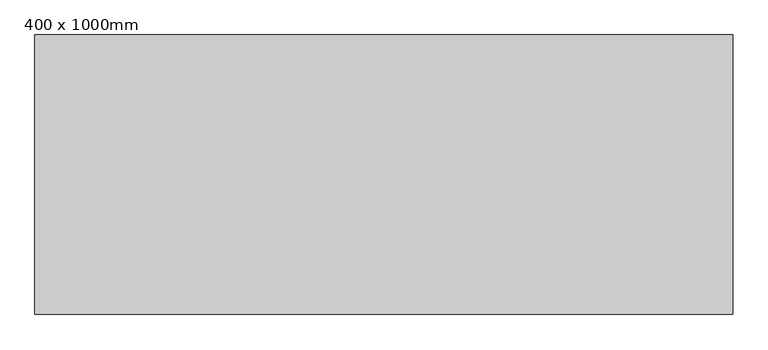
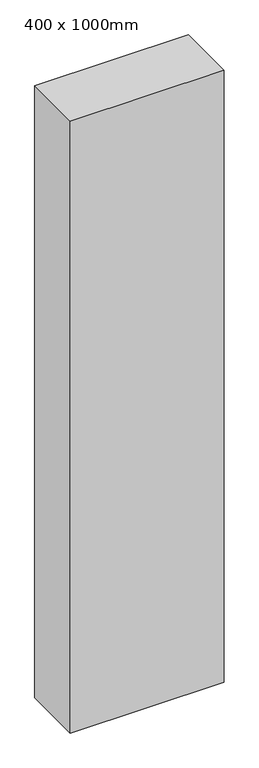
"""IFC4 building model written with IfcOpenShell, lengths in millimetres: column geometry, 矩形柱 : 400 x 1000mm."""

from ifc_helpers import new_model, si_unit, origin, origin_with_axes, place, context, project, spatial, polyline, outline, extrude, source, transform, mapped, element, save


def column_400_x_1000mm_b216b8c1(model_context):
    return source(origin(), model_context, "Body", "SweptSolid", [
        extrude(outline(polyline([(500.0, 200.0), (500.0, -200.0), (-500.0, -200.0), (-500.0, 200.0), (500.0, 200.0)])), origin_with_axes(), (0.0, 0.0, 1.0), 4200.0),
    ])


if __name__ == "__main__":
    model = new_model("IFC4")
    model_context = context("Model", 3, world=origin())
    ifc_project = project(units=[si_unit("LENGTHUNIT", "METRE", prefix="MILLI")], contexts=[model_context])
    site = spatial("IfcSite", under=ifc_project)
    building = spatial("IfcBuilding", under=site)
    placement = place(None, origin())
    column_400_x_1000mm_shape = column_400_x_1000mm_b216b8c1(model_context)
    element("IfcColumn", 1, ObjectType="矩形柱 : 400 x 1000mm", at=placement, inside=building, context=model_context, shape_type="MappedRepresentation", body=[
        mapped(column_400_x_1000mm_shape, transform((0.0, 0.0, 0.0), x_axis=(1.0, 0.0, 0.0), y_axis=(0.0, 1.0, 0.0), z_axis=(0.0, 0.0, 1.0))),
    ])
    save(model, "model.ifc")
